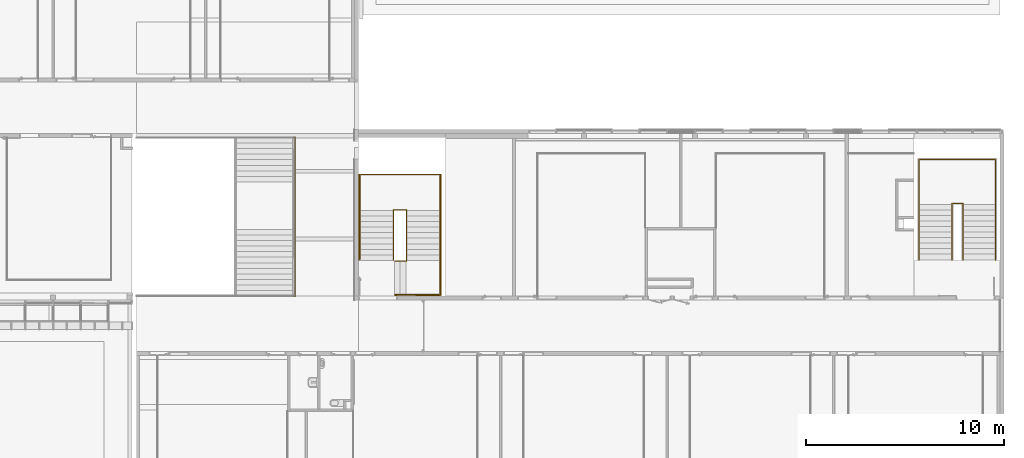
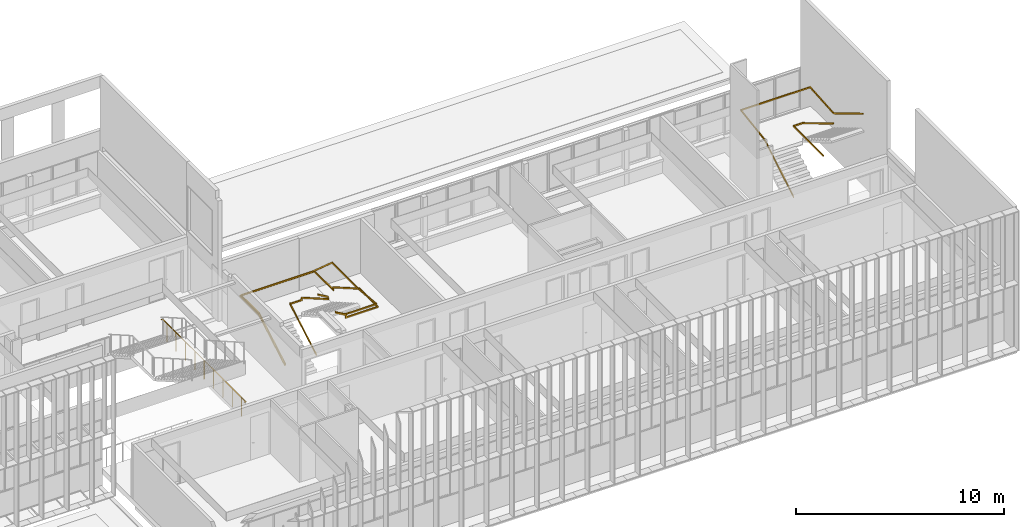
# One storey, part 105 of 106: 6 railings, 2 elements without a shape of their own.
"""IFC2X3 building model written with IfcOpenShell, lengths in centimetres."""

from ifc_helpers import new_model, entity, si_unit, converted_unit, derived_unit, direction, frame, origin, place, context, subcontext, project, spatial, faceted_brep, material, element, aggregate, save


model = new_model("IFC2X3")

# Units and contexts
model_context = context("Model", 3, precision=0.001, world=origin(), true_north=direction((6.12303176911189e-17, 1.0)))
body_context = subcontext(model_context, "Body", "Model", "MODEL_VIEW")
ifc_project = project(units=[si_unit("LENGTHUNIT", "METRE", prefix="CENTI"), si_unit("AREAUNIT", "SQUARE_METRE"), si_unit("VOLUMEUNIT", "CUBIC_METRE"), converted_unit("PLANEANGLEUNIT", "DEGREE", entity("IfcRatioMeasure", 0.0174532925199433), si_unit("PLANEANGLEUNIT", "RADIAN"), dimensions=[0, 0, 0, 0, 0, 0, 0]), si_unit("MASSUNIT", "GRAM", prefix="KILO"), derived_unit("MASSDENSITYUNIT", [(si_unit("MASSUNIT", "GRAM", prefix="KILO"), 1), (si_unit("LENGTHUNIT", "METRE"), -3)]), si_unit("TIMEUNIT", "SECOND"), si_unit("FREQUENCYUNIT", "HERTZ"), si_unit("THERMODYNAMICTEMPERATUREUNIT", "DEGREE_CELSIUS"), derived_unit("THERMALTRANSMITTANCEUNIT", [(si_unit("MASSUNIT", "GRAM", prefix="KILO"), 1), (si_unit("THERMODYNAMICTEMPERATUREUNIT", "KELVIN"), -1), (si_unit("TIMEUNIT", "SECOND"), -3)]), derived_unit("VOLUMETRICFLOWRATEUNIT", [(si_unit("LENGTHUNIT", "METRE"), 3), (si_unit("TIMEUNIT", "SECOND"), -1)]), si_unit("ELECTRICCURRENTUNIT", "AMPERE"), si_unit("ELECTRICVOLTAGEUNIT", "VOLT"), si_unit("POWERUNIT", "WATT"), si_unit("FORCEUNIT", "NEWTON", prefix="KILO"), si_unit("ILLUMINANCEUNIT", "LUX"), si_unit("LUMINOUSFLUXUNIT", "LUMEN"), si_unit("LUMINOUSINTENSITYUNIT", "CANDELA"), derived_unit("USERDEFINED", [(si_unit("MASSUNIT", "GRAM", prefix="KILO"), -1), (si_unit("LENGTHUNIT", "METRE"), -2), (si_unit("TIMEUNIT", "SECOND"), 3), (si_unit("LUMINOUSFLUXUNIT", "LUMEN"), 1)]), derived_unit("LINEARVELOCITYUNIT", [(si_unit("LENGTHUNIT", "METRE"), 1), (si_unit("TIMEUNIT", "SECOND"), -1)]), si_unit("PRESSUREUNIT", "PASCAL"), derived_unit("USERDEFINED", [(si_unit("LENGTHUNIT", "METRE"), -2), (si_unit("MASSUNIT", "GRAM", prefix="KILO"), 1), (si_unit("TIMEUNIT", "SECOND"), -2)])], contexts=[model_context])

# Site, building, storey
site_placement = place(None, frame((-2781.94577612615, 7442.24238424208, 0.0)))
site = spatial("IfcSite", under=ifc_project, at=site_placement, Name="Default", CompositionType="ELEMENT")
building_placement = place(site_placement, origin())
building = spatial("IfcBuilding", under=site, at=building_placement, CompositionType="ELEMENT")
storey_placement = place(building_placement, frame((0.0, 0.0, 422.0)))
storey = spatial("IfcBuildingStorey", under=building, at=storey_placement, Name="Toiture - Cuisine", CompositionType="ELEMENT", Elevation=421.999999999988)

# Stair, railings
stair_1_placement = place(building_placement, frame((0.0, 0.0, 422.0)))
stair_1 = element("IfcStair", 1, at=stair_1_placement, inside=storey, Name="Escalier coulé sur place:Escalier", ObjectType="Escalier coulé sur place:Monobloc", ShapeType="NOTDEFINED")
railing_1_placement = place(stair_1_placement, frame((-820.299882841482, -1730.07903364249, 96.013108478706)))
railing_1 = element("IfcRailing", 2, at=railing_1_placement, Name="Garde-corps:Garde-corps 1", ObjectType="Garde-corps:Garde-corps 1", PredefinedType="NOTDEFINED", context=body_context, shape_type="Brep", body=[
    faceted_brep([(384.92, 0.0, 364.616551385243), (384.92, 0.0, 355.735510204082), (390.0, 0.0, 355.735510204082), (390.0, 0.0, 364.616551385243), (384.92, 283.12, 195.129748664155), (384.92, 281.271067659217, 187.355551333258), (390.0, 281.271067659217, 187.355551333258), (390.0, 283.12, 195.129748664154), (384.920000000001, 505.919999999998, 211.296642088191), (390.0, 505.919999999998, 211.296642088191), (390.0, 505.919999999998, 203.656607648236), (384.920000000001, 505.919999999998, 203.656607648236)], [[[0, 1, 2, 3]], [[1, 0, 4, 5]], [[2, 1, 5, 6]], [[3, 2, 6, 7]], [[0, 3, 7, 4]], [[8, 9, 10, 11]], [[5, 4, 8, 11]], [[6, 5, 11, 10]], [[7, 6, 10, 9]], [[4, 7, 9, 8]]]),
    faceted_brep([(390.0, 505.919999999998, 211.665258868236), (390.0, 505.919999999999, 204.045258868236), (390.0, 511.0, 204.045258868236), (390.0, 511.0, 211.665258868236), (0.0, 505.920000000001, 211.665258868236), (0.0, 511.0, 211.665258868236), (0.0, 511.0, 204.045258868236), (0.0, 505.920000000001, 204.045258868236)], [[[0, 1, 2, 3]], [[4, 5, 6, 7]], [[1, 0, 4, 7]], [[2, 1, 7, 6]], [[3, 2, 6, 5]], [[0, 3, 5, 4]]]),
    faceted_brep([(5.08000000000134, 505.920000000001, 210.891929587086), (5.08000000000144, 505.920000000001, 203.18414223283), (0.0, 505.920000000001, 203.18414223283), (0.0, 505.920000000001, 210.891929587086), (5.08000000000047, 280.0, 176.500088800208), (5.08000000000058, 282.628202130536, 169.192393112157), (0.0, 282.628202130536, 169.192393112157), (0.0, 280.0, 176.500088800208), (5.07999999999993, 0.0, 8.88104118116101), (0.0, 0.0, 8.88104118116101), (0.0, 0.0, 0.0), (5.07999999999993, 0.0, 0.0)], [[[0, 1, 2, 3]], [[1, 0, 4, 5]], [[2, 1, 5, 6]], [[3, 2, 6, 7]], [[0, 3, 7, 4]], [[8, 9, 10, 11]], [[5, 4, 8, 11]], [[6, 5, 11, 10]], [[7, 6, 10, 9]], [[4, 7, 9, 8]]]),
])
railing_2_placement = place(stair_1_placement, frame((-655.379882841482, -1730.07903364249, 281.136373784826)))
railing_2 = element("IfcRailing", 3, at=railing_2_placement, Name="Garde-corps:Garde-corps 1", ObjectType="Garde-corps:Garde-corps 1", PredefinedType="NOTDEFINED", context=body_context, shape_type="Brep", body=[
    faceted_brep([(60.1600000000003, 0.0, 179.49328607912), (55.0800000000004, 0.0, 179.49328607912), (55.0800000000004, 0.0, 170.612244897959), (60.1600000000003, 0.0, 170.612244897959), (60.1600000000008, 285.0, 8.8810411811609), (60.1600000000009, 285.0, 0.0), (55.0800000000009, 285.0, 0.0), (55.0800000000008, 285.0, 8.88104118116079)], [[[0, 1, 2, 3]], [[4, 5, 6, 7]], [[1, 0, 4, 7]], [[2, 1, 7, 6]], [[3, 2, 6, 5]], [[0, 3, 5, 4]]]),
    faceted_brep([(60.1600000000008, 290.08, 8.8810411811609), (60.1600000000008, 285.0, 8.8810411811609), (60.1600000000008, 285.0, 1.2610411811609), (60.1600000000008, 290.08, 1.2610411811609), (0.0, 290.080000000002, 8.8810411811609), (5.08000000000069, 285.0, 8.8810411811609), (5.08000000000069, 285.0, 1.2610411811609), (0.0, 290.080000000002, 1.2610411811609), (0.0, 0.0, 8.8810411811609), (0.0, 0.0, 1.2610411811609), (5.08000000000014, 0.0, 1.2610411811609), (5.08000000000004, 0.0, 8.8810411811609)], [[[0, 1, 2, 3]], [[1, 0, 4, 5]], [[2, 1, 5, 6]], [[3, 2, 6, 7]], [[0, 3, 7, 4]], [[8, 9, 10, 11]], [[5, 4, 8, 11]], [[6, 5, 11, 10]], [[7, 6, 10, 9]], [[4, 7, 9, 8]]]),
])
aggregate(stair_1, [railing_1, railing_2])

# Railing
ifc_material = material(Name="Métal - Acier inoxydable, poli")
railing_3_placement = place(building_placement, frame((-3977.57987968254, -1913.07903364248, 422.0)))
element("IfcRailing", 4, at=railing_3_placement, inside=storey, material=ifc_material, Name="Garde-corps:Garde corps 1A0cmHT", ObjectType="Garde-corps:Garde corps 1A0cmHT", PredefinedType="NOTDEFINED", context=body_context, shape_type="Brep", body=[
    faceted_brep([(7.58000000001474, 763.639516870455, 0.0), (7.58000000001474, 762.439516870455, 0.0), (7.58000000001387, 762.439516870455, 109.5), (7.58000000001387, 763.639516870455, 109.5), (12.5800000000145, 763.639516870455, 0.0), (12.5800000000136, 763.639516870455, 109.5), (12.5800000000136, 762.439516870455, 109.5), (12.5800000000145, 762.439516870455, 0.0)], [[[0, 1, 2, 3]], [[4, 5, 6, 7]], [[1, 0, 4, 7]], [[2, 1, 7, 6]], [[3, 2, 6, 5]], [[0, 3, 5, 4]]]),
    faceted_brep([(7.58000000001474, 673.639516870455, 0.0), (7.58000000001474, 672.439516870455, 0.0), (7.58000000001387, 672.439516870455, 109.5), (7.58000000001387, 673.639516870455, 109.5), (12.5800000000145, 673.639516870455, 0.0), (12.5800000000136, 673.639516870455, 109.5), (12.5800000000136, 672.439516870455, 109.5), (12.5800000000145, 672.439516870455, 0.0)], [[[0, 1, 2, 3]], [[4, 5, 6, 7]], [[1, 0, 4, 7]], [[2, 1, 7, 6]], [[3, 2, 6, 5]], [[0, 3, 5, 4]]]),
    faceted_brep([(7.58000000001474, 583.639516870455, 0.0), (7.58000000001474, 582.439516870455, 0.0), (7.58000000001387, 582.439516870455, 109.5), (7.58000000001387, 583.639516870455, 109.5), (12.5800000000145, 583.639516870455, 0.0), (12.5800000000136, 583.639516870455, 109.5), (12.5800000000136, 582.439516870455, 109.5), (12.5800000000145, 582.439516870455, 0.0)], [[[0, 1, 2, 3]], [[4, 5, 6, 7]], [[1, 0, 4, 7]], [[2, 1, 7, 6]], [[3, 2, 6, 5]], [[0, 3, 5, 4]]]),
    faceted_brep([(7.58000000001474, 493.639516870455, 0.0), (7.58000000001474, 492.439516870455, 0.0), (7.58000000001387, 492.439516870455, 109.5), (7.58000000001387, 493.639516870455, 109.5), (12.5800000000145, 493.639516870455, 0.0), (12.5800000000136, 493.639516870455, 109.5), (12.5800000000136, 492.439516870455, 109.5), (12.5800000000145, 492.439516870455, 0.0)], [[[0, 1, 2, 3]], [[4, 5, 6, 7]], [[1, 0, 4, 7]], [[2, 1, 7, 6]], [[3, 2, 6, 5]], [[0, 3, 5, 4]]]),
    faceted_brep([(7.58000000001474, 403.639516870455, 0.0), (7.58000000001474, 402.439516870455, 0.0), (7.58000000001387, 402.439516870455, 109.5), (7.58000000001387, 403.639516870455, 109.5), (12.5800000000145, 403.639516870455, 0.0), (12.5800000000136, 403.639516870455, 109.5), (12.5800000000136, 402.439516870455, 109.5), (12.5800000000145, 402.439516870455, 0.0)], [[[0, 1, 2, 3]], [[4, 5, 6, 7]], [[1, 0, 4, 7]], [[2, 1, 7, 6]], [[3, 2, 6, 5]], [[0, 3, 5, 4]]]),
    faceted_brep([(7.58000000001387, 313.639516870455, 0.0), (7.58000000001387, 312.439516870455, 0.0), (7.580000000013, 312.439516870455, 109.5), (7.580000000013, 313.639516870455, 109.5), (12.5800000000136, 313.639516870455, 0.0), (12.5800000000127, 313.639516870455, 109.5), (12.5800000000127, 312.439516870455, 109.5), (12.5800000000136, 312.439516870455, 0.0)], [[[0, 1, 2, 3]], [[4, 5, 6, 7]], [[1, 0, 4, 7]], [[2, 1, 7, 6]], [[3, 2, 6, 5]], [[0, 3, 5, 4]]]),
    faceted_brep([(7.58000000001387, 223.639516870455, 0.0), (7.58000000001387, 222.439516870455, 0.0), (7.580000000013, 222.439516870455, 109.5), (7.580000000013, 223.639516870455, 109.5), (12.5800000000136, 223.639516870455, 0.0), (12.5800000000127, 223.639516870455, 109.5), (12.5800000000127, 222.439516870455, 109.5), (12.5800000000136, 222.439516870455, 0.0)], [[[0, 1, 2, 3]], [[4, 5, 6, 7]], [[1, 0, 4, 7]], [[2, 1, 7, 6]], [[3, 2, 6, 5]], [[0, 3, 5, 4]]]),
    faceted_brep([(7.58000000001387, 133.639516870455, 0.0), (7.58000000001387, 132.439516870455, 0.0), (7.580000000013, 132.439516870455, 109.5), (7.580000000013, 133.639516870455, 109.5), (12.5800000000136, 133.639516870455, 0.0), (12.5800000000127, 133.639516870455, 109.5), (12.5800000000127, 132.439516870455, 109.5), (12.5800000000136, 132.439516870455, 0.0)], [[[0, 1, 2, 3]], [[4, 5, 6, 7]], [[1, 0, 4, 7]], [[2, 1, 7, 6]], [[3, 2, 6, 5]], [[0, 3, 5, 4]]]),
    faceted_brep([(7.58000000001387, 43.639516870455, 0.0), (7.58000000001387, 42.439516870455, 0.0), (7.580000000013, 42.439516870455, 109.5), (7.580000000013, 43.639516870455, 109.5), (12.5800000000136, 43.639516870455, 0.0), (12.5800000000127, 43.639516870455, 109.5), (12.5800000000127, 42.439516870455, 109.5), (12.5800000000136, 42.439516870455, 0.0)], [[[0, 1, 2, 3]], [[4, 5, 6, 7]], [[1, 0, 4, 7]], [[2, 1, 7, 6]], [[3, 2, 6, 5]], [[0, 3, 5, 4]]]),
    faceted_brep([(0.0, 0.0, 109.5), (0.0, 0.0, 110.5), (0.0, 5.0, 110.5), (0.0, 5.0, 109.5), (7.58000000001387, 5.0, 110.5), (7.58000000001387, 5.0, 109.5), (12.5800000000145, 0.0, 109.5), (7.58000000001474, 801.079033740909, 110.5), (7.58000000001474, 801.079033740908, 109.5), (12.5800000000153, 806.079033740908, 109.5), (12.5800000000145, 0.0, 110.5), (12.5800000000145, 806.079033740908, 110.5), (0.0, 806.079033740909, 109.5), (0.0, 801.079033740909, 109.5), (0.0, 801.079033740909, 110.5), (0.0, 806.079033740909, 110.5)], [[[0, 1, 2, 3]], [[3, 2, 4, 5]], [[0, 3, 5, 6]], [[5, 4, 7, 8]], [[6, 5, 8, 9]], [[1, 0, 6, 10]], [[2, 1, 10, 4]], [[10, 6, 9, 11]], [[4, 10, 11, 7]], [[12, 13, 14, 15]], [[11, 9, 12, 15]], [[7, 11, 15, 14]], [[8, 7, 14, 13]], [[9, 8, 13, 12]]]),
])

# Stair, railings
stair_2_placement = place(building_placement, frame((0.0, 0.0, 422.0)))
stair_2 = element("IfcStair", 5, at=stair_2_placement, inside=storey, Name="Escalier coulé sur place:Escalier", ObjectType="Escalier coulé sur place:Monobloc", ShapeType="NOTDEFINED")
railing_4_placement = place(stair_2_placement, frame((-3642.99987968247, -1905.07903364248, 99.6302655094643)))
railing_4 = element("IfcRailing", 6, at=railing_4_placement, Name="Garde-corps:Garde-corps 1", ObjectType="Garde-corps:Garde-corps 1", PredefinedType="NOTDEFINED", context=body_context, shape_type="Brep", body=[
    faceted_brep([(5.08000000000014, 179.0, 8.79259163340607), (0.0, 179.0, 8.79259163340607), (0.0, 179.0, 0.0), (5.08000000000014, 179.0, 0.0), (5.08000000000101, 431.0, 153.872591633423), (0.0, 431.0, 153.872591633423), (0.0, 433.036759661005, 146.252591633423), (5.08000000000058, 433.036759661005, 146.252591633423), (5.08000000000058, 604.920000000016, 153.872591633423), (0.0, 610.0, 153.872591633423), (0.0, 610.0, 146.252591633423), (5.08000000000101, 604.920000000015, 146.252591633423), (403.619996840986, 604.920000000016, 153.872591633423), (403.619996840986, 604.920000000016, 146.252591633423), (403.619996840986, 610.0, 146.252591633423), (403.619996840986, 610.0, 153.872591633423)], [[[0, 1, 2, 3]], [[1, 0, 4, 5]], [[2, 1, 5, 6]], [[3, 2, 6, 7]], [[0, 3, 7, 4]], [[5, 4, 8, 9]], [[6, 5, 9, 10]], [[7, 6, 10, 11]], [[4, 7, 11, 8]], [[12, 13, 14, 15]], [[9, 8, 12, 15]], [[10, 9, 15, 14]], [[11, 10, 14, 13]], [[8, 11, 13, 12]]]),
    faceted_brep([(403.619996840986, 610.0, 153.872591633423), (408.699996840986, 610.0, 153.872591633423), (408.699996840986, 610.0, 143.693597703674), (403.619996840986, 610.0, 143.693597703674), (403.619996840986, 431.0, 312.409511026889), (408.699996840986, 431.0, 312.409511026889), (408.699996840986, 428.110705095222, 304.789511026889), (403.619996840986, 428.110705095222, 304.789511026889), (403.619996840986, 179.0, 312.409511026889), (408.699996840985, 179.0, 312.409511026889), (408.699996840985, 178.657580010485, 304.789511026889), (403.619996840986, 178.657580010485, 304.789511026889), (403.619996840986, 5.08000000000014, 328.072027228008), (403.619996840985, 5.08000000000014, 320.421190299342), (408.699996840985, 5.08000000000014, 320.421190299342), (408.699996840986, 5.08000000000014, 328.072027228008)], [[[0, 1, 2, 3]], [[1, 0, 4, 5]], [[2, 1, 5, 6]], [[3, 2, 6, 7]], [[0, 3, 7, 4]], [[5, 4, 8, 9]], [[6, 5, 9, 10]], [[7, 6, 10, 11]], [[4, 7, 11, 8]], [[12, 13, 14, 15]], [[9, 8, 12, 15]], [[10, 9, 15, 14]], [[11, 10, 14, 13]], [[8, 11, 13, 12]]]),
    faceted_brep([(408.699996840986, 5.08000000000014, 328.529511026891), (408.699996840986, 0.0, 328.529511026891), (408.699996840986, 0.0, 320.909494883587), (408.699996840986, 5.08000000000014, 320.909494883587), (233.699996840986, 5.08000000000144, 328.889734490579), (233.699996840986, 0.0, 328.889734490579), (231.655956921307, 0.0, 321.273925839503), (231.655956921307, 5.08000000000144, 321.273925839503), (177.699996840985, 5.08000000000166, 361.129734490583), (177.699996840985, 5.08000000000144, 352.337142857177), (177.699996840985, 0.0, 352.337142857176), (177.699996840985, 0.0, 361.129734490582)], [[[0, 1, 2, 3]], [[1, 0, 4, 5]], [[2, 1, 5, 6]], [[3, 2, 6, 7]], [[0, 3, 7, 4]], [[8, 9, 10, 11]], [[5, 4, 8, 11]], [[6, 5, 11, 10]], [[7, 6, 10, 9]], [[4, 7, 9, 8]]]),
])
railing_5_placement = place(stair_2_placement, frame((-3473.07987968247, -1736.42903364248, 97.3274083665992)))
railing_5 = element("IfcRailing", 7, at=railing_5_placement, Name="Garde-corps:Garde-corps 1", ObjectType="Garde-corps:Garde-corps 1", PredefinedType="NOTDEFINED", context=body_context, shape_type="Brep", body=[
    faceted_brep([(0.0, 6.34999999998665, 8.79259163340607), (0.0, 6.34999999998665, 0.0), (5.08000000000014, 6.34999999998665, 0.0), (5.08000000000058, 6.34999999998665, 8.79259163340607), (0.0, 263.429999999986, 156.797220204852), (5.08000000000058, 263.429999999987, 156.797220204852), (5.08000000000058, 263.429999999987, 148.004628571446), (0.0, 263.429999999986, 148.004628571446)], [[[0, 1, 2, 3]], [[4, 5, 6, 7]], [[1, 0, 4, 7]], [[2, 1, 7, 6]], [[3, 2, 6, 5]], [[0, 3, 5, 4]]]),
    faceted_brep([(5.08000000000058, 263.429999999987, 153.872591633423), (5.08000000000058, 263.429999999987, 146.252591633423), (5.08000000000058, 258.349999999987, 146.252591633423), (5.08000000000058, 258.349999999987, 153.872591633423), (62.5099968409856, 263.43, 153.872591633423), (70.1299968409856, 263.430000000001, 146.252591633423), (70.1299968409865, 258.350000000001, 146.252591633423), (62.5099968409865, 258.35, 153.872591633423), (62.5099968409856, 263.43, 158.27537142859), (62.5099968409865, 258.35, 161.20000000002), (70.1299968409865, 258.350000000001, 161.200000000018), (70.1299968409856, 263.430000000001, 158.275371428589)], [[[0, 1, 2, 3]], [[1, 0, 4, 5]], [[2, 1, 5, 6]], [[3, 2, 6, 7]], [[0, 3, 7, 4]], [[8, 9, 10, 11]], [[5, 4, 8, 11]], [[6, 5, 11, 10]], [[7, 6, 10, 9]], [[4, 7, 9, 8]]]),
    faceted_brep([(68.8599968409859, 260.89, 168.53027734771), (68.8599968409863, 260.89, 159.737685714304), (63.7799968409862, 260.89, 159.737685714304), (63.7799968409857, 260.89, 168.53027734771), (68.8599968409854, 7.61999999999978, 314.341434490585), (68.8599968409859, 0.0, 309.935785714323), (63.7799968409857, 0.0, 309.935785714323), (63.7799968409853, 7.61999999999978, 314.341434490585), (68.8599968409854, 7.62, 319.47537142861), (63.7799968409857, 7.62, 322.400000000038), (63.7799968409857, 0.0, 322.400000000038), (68.8599968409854, 0.0, 319.47537142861)], [[[0, 1, 2, 3]], [[1, 0, 4, 5]], [[2, 1, 5, 6]], [[3, 2, 6, 7]], [[0, 3, 7, 4]], [[8, 9, 10, 11]], [[5, 4, 8, 11]], [[6, 5, 11, 10]], [[7, 6, 10, 9]], [[4, 7, 9, 8]]]),
    faceted_brep([(66.3199968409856, 1.26999999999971, 329.73027734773), (66.3199968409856, 1.26999999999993, 320.937685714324), (66.3199968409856, 6.34999999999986, 320.937685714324), (66.3199968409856, 6.34999999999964, 329.73027734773), (7.77999684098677, 1.26999999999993, 363.432591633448), (7.77999684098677, 6.35000000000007, 363.432591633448), (7.77999684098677, 6.35000000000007, 354.640000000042), (7.77999684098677, 1.26999999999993, 354.640000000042)], [[[0, 1, 2, 3]], [[4, 5, 6, 7]], [[1, 0, 4, 7]], [[2, 1, 7, 6]], [[3, 2, 6, 5]], [[0, 3, 5, 4]]]),
])
railing_6_placement = place(stair_2_placement, frame((-3647.99987968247, -1910.07903364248, 97.3274083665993)))
railing_6 = element("IfcRailing", 8, at=railing_6_placement, Name="Garde-corps:Garde-corps 1", ObjectType="Garde-corps:Garde-corps 1", PredefinedType="NOTDEFINED", context=body_context, shape_type="Brep", body=[
    faceted_brep([(5.08000000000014, 180.0, 8.79259163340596), (0.0, 180.0, 8.79259163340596), (0.0, 180.0, 0.0), (5.08000000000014, 180.0, 0.0), (5.08000000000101, 432.0, 153.872591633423), (0.0, 432.0, 153.872591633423), (0.0, 434.036759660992, 146.252591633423), (5.08000000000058, 434.036759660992, 146.252591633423), (5.08000000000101, 610.920000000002, 153.872591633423), (0.0, 616.0, 153.872591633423), (0.0, 616.0, 146.252591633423), (5.08000000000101, 610.920000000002, 146.252591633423), (413.619996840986, 610.920000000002, 153.872591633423), (418.699996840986, 616.0, 153.872591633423), (418.699996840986, 616.0, 146.252591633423), (413.619996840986, 610.920000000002, 146.252591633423), (413.619996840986, 435.810000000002, 153.872591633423), (418.699996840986, 435.810000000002, 153.872591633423), (418.699996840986, 428.190000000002, 146.252591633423), (413.619996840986, 428.190000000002, 146.252591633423), (413.619996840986, 435.810000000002, 167.799120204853), (418.699996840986, 435.810000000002, 167.799120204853), (418.699996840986, 428.190000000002, 163.393471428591), (413.619996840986, 428.190000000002, 163.393471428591), (413.619996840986, 180.0, 315.072591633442), (418.699996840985, 180.0, 315.072591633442), (418.699996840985, 177.963240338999, 307.452591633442), (413.619996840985, 177.963240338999, 307.452591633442), (413.619996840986, 5.08000000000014, 315.072591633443), (418.699996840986, 0.0, 315.072591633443), (418.699996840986, 0.0, 307.452591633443), (413.619996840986, 5.08000000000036, 307.452591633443), (242.509996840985, 5.08000000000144, 315.072591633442), (242.509996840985, 0.0, 315.072591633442), (234.889996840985, 0.0, 307.452591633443), (234.889996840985, 5.08000000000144, 307.452591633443), (242.509996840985, 5.08000000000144, 328.999120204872), (242.509996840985, 0.0, 328.999120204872), (234.889996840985, 0.0, 324.59347142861), (234.889996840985, 5.08000000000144, 324.59347142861), (182.699996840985, 5.08000000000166, 363.432591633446), (182.699996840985, 5.08000000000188, 354.64000000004), (182.699996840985, 0.0, 354.640000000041), (182.699996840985, 0.0, 363.432591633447)], [[[0, 1, 2, 3]], [[1, 0, 4, 5]], [[2, 1, 5, 6]], [[3, 2, 6, 7]], [[0, 3, 7, 4]], [[5, 4, 8, 9]], [[6, 5, 9, 10]], [[7, 6, 10, 11]], [[4, 7, 11, 8]], [[9, 8, 12, 13]], [[10, 9, 13, 14]], [[11, 10, 14, 15]], [[8, 11, 15, 12]], [[13, 12, 16, 17]], [[14, 13, 17, 18]], [[15, 14, 18, 19]], [[12, 15, 19, 16]], [[17, 16, 20, 21]], [[18, 17, 21, 22]], [[19, 18, 22, 23]], [[16, 19, 23, 20]], [[21, 20, 24, 25]], [[22, 21, 25, 26]], [[23, 22, 26, 27]], [[20, 23, 27, 24]], [[25, 24, 28, 29]], [[26, 25, 29, 30]], [[27, 26, 30, 31]], [[24, 27, 31, 28]], [[29, 28, 32, 33]], [[30, 29, 33, 34]], [[31, 30, 34, 35]], [[28, 31, 35, 32]], [[33, 32, 36, 37]], [[34, 33, 37, 38]], [[35, 34, 38, 39]], [[32, 35, 39, 36]], [[40, 41, 42, 43]], [[37, 36, 40, 43]], [[38, 37, 43, 42]], [[39, 38, 42, 41]], [[36, 39, 41, 40]]]),
])
aggregate(stair_2, [railing_4, railing_5, railing_6])

save(model, "model.ifc")
